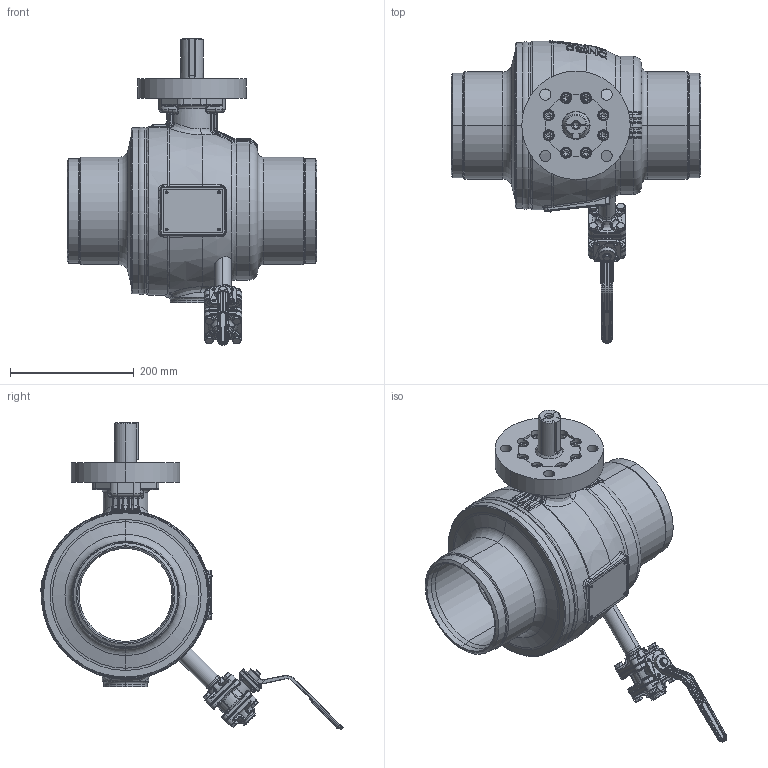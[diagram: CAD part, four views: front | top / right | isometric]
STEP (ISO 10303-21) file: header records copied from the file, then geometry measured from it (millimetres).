
FILE_DESCRIPTION((''),'2;1');
FILE_NAME('KHSVI_150_FG_FR_WE_F14_ENTL','2026-01-27T14:22:22',('schwaba'),('KLINGER'),'CREO PARAMETRIC BY PTC INC, 2023014','CREO PARAMETRIC BY PTC INC, 2023014','');
FILE_SCHEMA(('CONFIG_CONTROL_DESIGN'));
Length unit declared in the file: millimetre
Products named in the file (1): KHSVI_150_FG_FR_WE_F14_ENTL
Bounding box: 403 x 488.12 x 494.9 mm (x, y, z)
Volume: 6558485.9 mm3; surface area: 1232756.5 mm2
Topology: 1 solids, 3 shells, 3163 faces, 7633 edges, 4558 vertices
Faces by surface type: plane 932, cylinder 779, bspline 618, torus 461, cone 301, sphere 51, revolution 16, extrusion 5
Entity records: 185417 total; most frequent: CARTESIAN_POINT 116103, ORIENTED_EDGE 15206, DIRECTION 13830, EDGE_CURVE 7603, AXIS2_PLACEMENT_3D 5836, VERTEX_POINT 4558, EDGE_LOOP 3361, CIRCLE 3309
